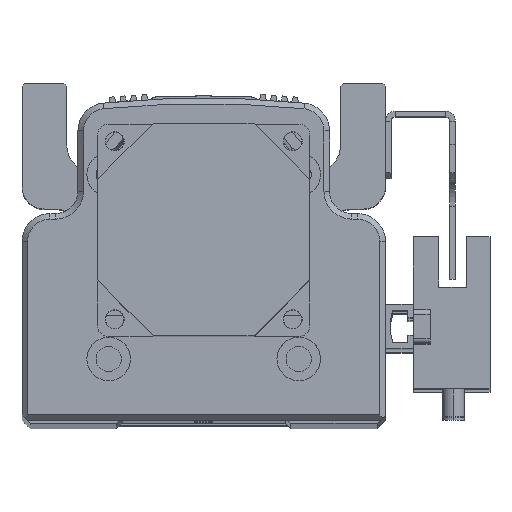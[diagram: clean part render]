
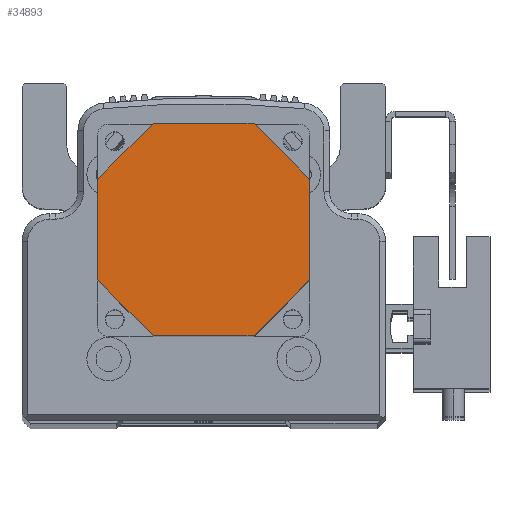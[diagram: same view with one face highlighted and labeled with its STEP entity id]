
A CAD part, top view. The second image highlights one B-rep face of the part: STEP entity #34893.
In plain terms, the highlighted planar face has unit normal (0, 0, 1) as drawn and (0, 0, -1) by its records, which use the part's own axes.
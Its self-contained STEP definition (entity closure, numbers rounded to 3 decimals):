
#467 = ORIENTED_EDGE ( 'NONE', *, *, #33677, .T. ) ;
#469 = ORIENTED_EDGE ( 'NONE', *, *, #33647, .T. ) ;
#479 = ORIENTED_EDGE ( 'NONE', *, *, #33728, .T. ) ;
#481 = ORIENTED_EDGE ( 'NONE', *, *, #33632, .T. ) ;
#493 = ORIENTED_EDGE ( 'NONE', *, *, #33627, .T. ) ;
#496 = ORIENTED_EDGE ( 'NONE', *, *, #33634, .T. ) ;
#508 = ORIENTED_EDGE ( 'NONE', *, *, #33727, .T. ) ;
#7697 = VERTEX_POINT ( 'NONE', #26902 ) ;
#7712 = VERTEX_POINT ( 'NONE', #26904 ) ;
#7837 = VERTEX_POINT ( 'NONE', #26936 ) ;
#7846 = VERTEX_POINT ( 'NONE', #26950 ) ;
#7873 = VERTEX_POINT ( 'NONE', #26924 ) ;
#7880 = VERTEX_POINT ( 'NONE', #26929 ) ;
#7892 = VERTEX_POINT ( 'NONE', #26945 ) ;
#7894 = VERTEX_POINT ( 'NONE', #26953 ) ;
#9438 = AXIS2_PLACEMENT_3D ( 'NONE', #18464, #18452, #18466 ) ;
#18452 = DIRECTION ( 'NONE',  ( 0., 0., 1. ) ) ;
#18464 = CARTESIAN_POINT ( 'NONE',  ( 0., 0., -84. ) ) ;
#18466 = DIRECTION ( 'NONE',  ( 1., 0., 0. ) ) ;
#18476 = PLANE ( 'NONE',  #9438 ) ;
#19449 = CARTESIAN_POINT ( 'NONE',  ( -19., 9., -84. ) ) ;
#19460 = DIRECTION ( 'NONE',  ( 0., 1., 0. ) ) ;
#19483 = DIRECTION ( 'NONE',  ( -0.707, 0.707, 0. ) ) ;
#19486 = CARTESIAN_POINT ( 'NONE',  ( -9., -19., -84. ) ) ;
#20262 = CARTESIAN_POINT ( 'NONE',  ( 9., -19., -84. ) ) ;
#20284 = DIRECTION ( 'NONE',  ( -1., 0., 0. ) ) ;
#20306 = CARTESIAN_POINT ( 'NONE',  ( -9., 19., -84. ) ) ;
#20319 = DIRECTION ( 'NONE',  ( 0.707, 0.707, 0. ) ) ;
#21051 = CARTESIAN_POINT ( 'NONE',  ( 9., 19., -84. ) ) ;
#21091 = DIRECTION ( 'NONE',  ( 1., 0., 0. ) ) ;
#21126 = DIRECTION ( 'NONE',  ( -0.707, -0.707, 0. ) ) ;
#21127 = CARTESIAN_POINT ( 'NONE',  ( 19., 9., -84. ) ) ;
#21138 = CARTESIAN_POINT ( 'NONE',  ( 19., -9., -84. ) ) ;
#21141 = DIRECTION ( 'NONE',  ( 0., -1., 0. ) ) ;
#21155 = DIRECTION ( 'NONE',  ( 0.707, -0.707, 0. ) ) ;
#21189 = CARTESIAN_POINT ( 'NONE',  ( 19., 9., -84. ) ) ;
#21609 = FACE_OUTER_BOUND ( 'NONE', #27735, .T. ) ;
#22961 = LINE ( 'NONE', #21138, #22962 ) ;
#22962 = VECTOR ( 'NONE', #21126, 1000. ) ;
#22975 = LINE ( 'NONE', #21127, #22990 ) ;
#22985 = VECTOR ( 'NONE', #21091, 1000. ) ;
#22990 = VECTOR ( 'NONE', #21141, 1000. ) ;
#22997 = LINE ( 'NONE', #21051, #22985 ) ;
#22999 = LINE ( 'NONE', #21189, #23006 ) ;
#23006 = VECTOR ( 'NONE', #21155, 1000. ) ;
#23008 = VECTOR ( 'NONE', #20284, 1000. ) ;
#23015 = LINE ( 'NONE', #20262, #23008 ) ;
#23079 = LINE ( 'NONE', #20306, #23127 ) ;
#23091 = LINE ( 'NONE', #19486, #23121 ) ;
#23121 = VECTOR ( 'NONE', #19483, 1000. ) ;
#23124 = LINE ( 'NONE', #19449, #23125 ) ;
#23125 = VECTOR ( 'NONE', #19460, 1000. ) ;
#23127 = VECTOR ( 'NONE', #20319, 1000. ) ;
#26902 = CARTESIAN_POINT ( 'NONE',  ( 19., -9., -84. ) ) ;
#26904 = CARTESIAN_POINT ( 'NONE',  ( -9., 19., -84. ) ) ;
#26924 = CARTESIAN_POINT ( 'NONE',  ( -9., -19., -84. ) ) ;
#26929 = CARTESIAN_POINT ( 'NONE',  ( -19., -9., -84. ) ) ;
#26936 = CARTESIAN_POINT ( 'NONE',  ( 19., 9., -84. ) ) ;
#26945 = CARTESIAN_POINT ( 'NONE',  ( 9., 19., -84. ) ) ;
#26950 = CARTESIAN_POINT ( 'NONE',  ( -19., 9., -84. ) ) ;
#26953 = CARTESIAN_POINT ( 'NONE',  ( 9., -19., -84. ) ) ;
#27735 = EDGE_LOOP ( 'NONE', ( #479, #508, #32567, #493, #469, #496, #481, #467 ) ) ;
#32567 = ORIENTED_EDGE ( 'NONE', *, *, #33708, .T. ) ;
#33627 = EDGE_CURVE ( 'NONE', #7712, #7892, #22997, .T. ) ;
#33632 = EDGE_CURVE ( 'NONE', #7697, #7894, #22961, .T. ) ;
#33634 = EDGE_CURVE ( 'NONE', #7837, #7697, #22975, .T. ) ;
#33647 = EDGE_CURVE ( 'NONE', #7892, #7837, #22999, .T. ) ;
#33677 = EDGE_CURVE ( 'NONE', #7894, #7873, #23015, .T. ) ;
#33708 = EDGE_CURVE ( 'NONE', #7846, #7712, #23079, .T. ) ;
#33727 = EDGE_CURVE ( 'NONE', #7880, #7846, #23124, .T. ) ;
#33728 = EDGE_CURVE ( 'NONE', #7873, #7880, #23091, .T. ) ;
#34893 = ADVANCED_FACE ( 'NONE', ( #21609 ), #18476, .F. ) ;
